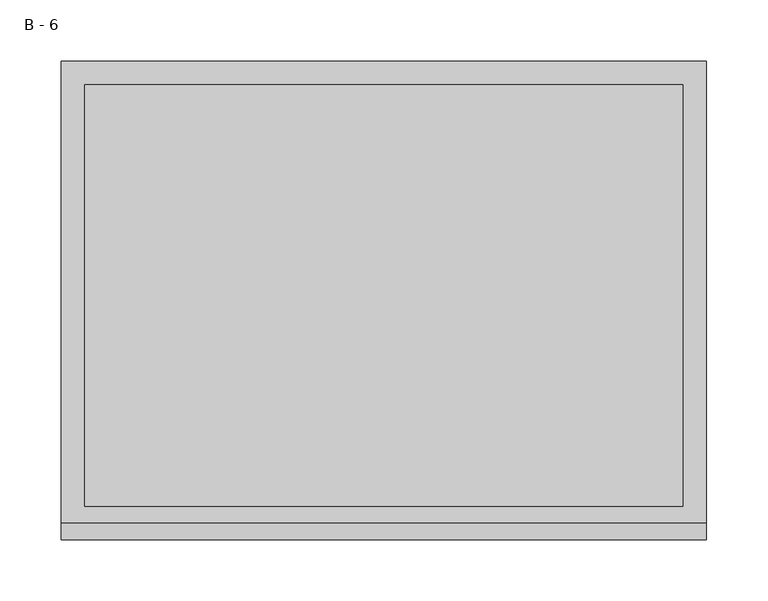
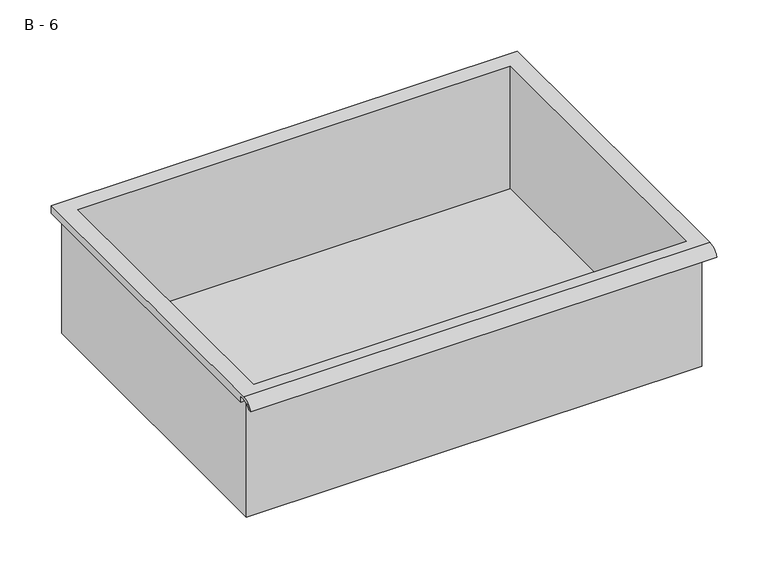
"""IFC4 building model written with IfcOpenShell, lengths in millimetres: furniture geometry, HermanMiller_CoStruc_CO207_Drawer : B - 6."""

from ifc_helpers import new_model, si_unit, frame, origin, place, context, project, spatial, polyline, circle_curve, source, transform, mapped, element, save
from ifc_brep_helpers import plane_surface, cylinder_surface, revolved_surface, advanced_brep


def b_6_de3e8c4b(model_context):
    return source(origin(), model_context, "Body", "AdvancedBrep", [
        advanced_brep(
        [(-257.1076517, -176.2125, 469.8111), (257.2423483, -176.2125, 469.8111), (257.2423483, -176.2125, 609.5111), (263.5923483, -176.2125, 609.5111), (263.5923483, -176.2125, 615.8182341), (-263.4576517, -176.2125, 615.8182341), (-263.4576517, -176.2125, 609.5111), (-257.1076517, -176.2125, 609.5111), (257.2423483, 185.7375, 469.8111), (-257.1076517, 185.7375, 469.8111), (-257.1076517, 185.7375, 609.5111), (257.2423483, 185.7375, 609.5111), (263.5923483, -181.6070544, 619.0361), (263.5923483, 195.2625, 619.0361), (-263.4576517, 195.2625, 619.0361), (-263.4576517, -181.6070544, 619.0361), (244.5423483, -168.275, 619.0361), (-244.4076517, -168.275, 619.0361), (-244.4076517, 176.2125, 619.0361), (244.5423483, 176.2125, 619.0361), (263.5923483, -195.2625, 609.5111), (263.5923483, -191.8280601, 609.5111), (263.5923483, -180.4714815, 615.8182341), (263.5923483, 195.2625, 609.5111), (-263.4576517, 195.2625, 609.5111), (-263.4576517, -180.4714815, 615.8182341), (-263.4576517, -191.8280601, 609.5111), (-263.4576517, -195.2625, 609.5111), (-244.4076517, -168.275, 472.8372719), (244.5423483, -168.275, 472.8372719), (244.5423483, 176.2125, 472.8372719), (-244.4076517, 176.2125, 472.8372719)],
        [
            (0, 1),
            (1, 2),
            (2, 3),
            (3, 4),
            (4, 5),
            (5, 6),
            (6, 7),
            (7, 0),
            (8, 9),
            (9, 10),
            (10, 11),
            (11, 8),
            (0, 9),
            (8, 1),
            (11, 2),
            (12, 13),
            (13, 14),
            (14, 15),
            (15, 12),
            (16, 17),
            (17, 18),
            (18, 19),
            (19, 16),
            (7, 10),
            (12, 20, circle_curve(frame((263.5923483, -181.6070544, 604.4850859), z_axis=(1.0, 0.0, 0.0), x_axis=(0.0, 1.0, 0.0)), 14.5510141)),
            (20, 21),
            (21, 22, circle_curve(frame((263.5923483, -181.6070544, 604.4850859), z_axis=(-1.0, 0.0, 0.0), x_axis=(0.0, 1.0, 0.0)), 11.3898979)),
            (22, 4),
            (3, 23),
            (23, 13),
            (14, 24),
            (24, 6),
            (5, 25),
            (25, 26, circle_curve(frame((-263.4576517, -181.6070544, 604.4850859), z_axis=(1.0, 0.0, 0.0), x_axis=(0.0, 1.0, 0.0)), 11.3898979)),
            (26, 27),
            (27, 15, circle_curve(frame((-263.4576517, -181.6070544, 604.4850859), z_axis=(-1.0, 0.0, 0.0), x_axis=(0.0, 1.0, 0.0)), 14.5510141)),
            (27, 20),
            (26, 21),
            (25, 22),
            (24, 23),
            (28, 29),
            (29, 30),
            (30, 31),
            (31, 28),
            (28, 17),
            (16, 29),
            (19, 30),
            (18, 31),
        ],
        [
            plane_surface(frame((257.2423483, -176.2125, 469.8111), z_axis=(0.0, -1.0, 0.0), x_axis=(1.0, 0.0, 0.0))),
            plane_surface(frame((257.2423483, 185.7375, 469.8111), z_axis=(0.0, 1.0, 0.0), x_axis=(-1.0, 0.0, 0.0))),
            plane_surface(frame((-257.1076517, -176.2125, 469.8111), z_axis=(0.0, 0.0, -1.0), x_axis=(0.0, 1.0, 0.0))),
            plane_surface(frame((257.2423483, -176.2125, 469.8111), z_axis=(1.0, 0.0, 0.0), x_axis=(0.0, 1.0, 0.0))),
            plane_surface(frame((257.2423483, -176.2125, 619.0361), z_axis=(0.0, 0.0, 1.0), x_axis=(0.0, 1.0, 0.0))),
            plane_surface(frame((-257.1076517, -176.2125, 619.0361), z_axis=(-1.0, 0.0, 0.0), x_axis=(0.0, 1.0, 0.0))),
            plane_surface(frame((263.5923483, 195.2625, 619.0361), z_axis=(1.0, 0.0, 0.0), x_axis=(0.0, -1.0, 0.0))),
            plane_surface(frame((-263.4576517, 195.2625, 619.0361), z_axis=(-1.0, 0.0, 0.0), x_axis=(0.0, 1.0, 0.0))),
            cylinder_surface(frame((-263.4576517, -181.6070544, 604.4850859), z_axis=(1.0, 0.0, 0.0), x_axis=(0.0, 1.0, 0.0)), 14.5510141),
            plane_surface(frame((263.5923483, -195.2625, 609.5111), z_axis=(0.0, -7.2321151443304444e-12, -1.0), x_axis=(-1.0, 0.0, 0.0))),
            revolved_surface(polyline([(-263.4576517, -170.21715650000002, 604.4850859), (263.59234829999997, -170.21715650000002, 604.4850859)]), (-263.4576517, -181.6070544, 604.4850859), (-1.0, 0.0, 0.0)),
            plane_surface(frame((263.5923483, -180.4714815, 615.8182341), z_axis=(0.0, -1.7956755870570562e-11, -1.0), x_axis=(-1.0, 0.0, 0.0))),
            plane_surface(frame((263.5923483, -176.2125, 609.5111), z_axis=(0.0, 0.0, -1.0), x_axis=(-1.0, 0.0, 0.0))),
            plane_surface(frame((263.5923483, 195.2625, 609.5111), z_axis=(0.0, 1.0, 0.0), x_axis=(-1.0, 0.0, 0.0))),
            plane_surface(frame((244.5423483, -168.275, 472.8372719), z_axis=(0.0, 0.0, 1.0), x_axis=(-1.0, 0.0, 0.0))),
            plane_surface(frame((-244.4076517, -168.275, 619.0361), z_axis=(0.0, 1.0, 0.0), x_axis=(0.0, 0.0, -1.0))),
            plane_surface(frame((244.5423483, -168.275, 619.0361), z_axis=(-1.0, 0.0, 0.0), x_axis=(0.0, 0.0, -1.0))),
            plane_surface(frame((244.5423483, 176.2125, 619.0361), z_axis=(0.0, -1.0, 0.0), x_axis=(0.0, 0.0, -1.0))),
            plane_surface(frame((-244.4076517, 176.2125, 619.0361), z_axis=(1.0, 0.0, 0.0), x_axis=(0.0, 0.0, -1.0))),
        ],
        [
            (0, [[1, 2, 3, 4, 5, 6, 7, 8]]),
            (1, [[9, 10, 11, 12]]),
            (2, [[-1, 13, -9, 14]]),
            (3, [[-14, -12, 15, -2]]),
            (4, [[16, 17, 18, 19], [20, 21, 22, 23]]),
            (5, [[-13, -8, 24, -10]]),
            (6, [[-16, 25, 26, 27, 28, -4, 29, 30]]),
            (7, [[31, 32, -6, 33, 34, 35, 36, -18]]),
            (8, [[-25, -19, -36, 37]]),
            (9, [[-26, -37, -35, 38]]),
            (10, [[-27, -38, -34, 39]]),
            (11, [[-28, -39, -33, -5]]),
            (12, [[-29, -3, -15, -11, -24, -7, -32, 40]]),
            (13, [[-30, -40, -31, -17]]),
            (14, [[41, 42, 43, 44]]),
            (15, [[-41, 45, -20, 46]]),
            (16, [[-42, -46, -23, 47]]),
            (17, [[-43, -47, -22, 48]]),
            (18, [[-44, -48, -21, -45]]),
        ],
    ),
    ])


if __name__ == "__main__":
    model = new_model("IFC4")
    model_context = context("Model", 3, world=origin())
    ifc_project = project(units=[si_unit("LENGTHUNIT", "METRE", prefix="MILLI")], contexts=[model_context])
    site = spatial("IfcSite", under=ifc_project)
    building = spatial("IfcBuilding", under=site)
    placement = place(None, origin())
    b_6_shape = b_6_de3e8c4b(model_context)
    element("IfcFurniture", 1, ObjectType="HermanMiller_CoStruc_CO207_Drawer : B - 6", at=placement, inside=building, context=model_context, shape_type="MappedRepresentation", body=[
        mapped(b_6_shape, transform((0.0, 0.0, 0.0), x_axis=(1.0, 0.0, 0.0), y_axis=(0.0, 1.0, 0.0), z_axis=(0.0, 0.0, 1.0))),
    ])
    save(model, "model.ifc")
